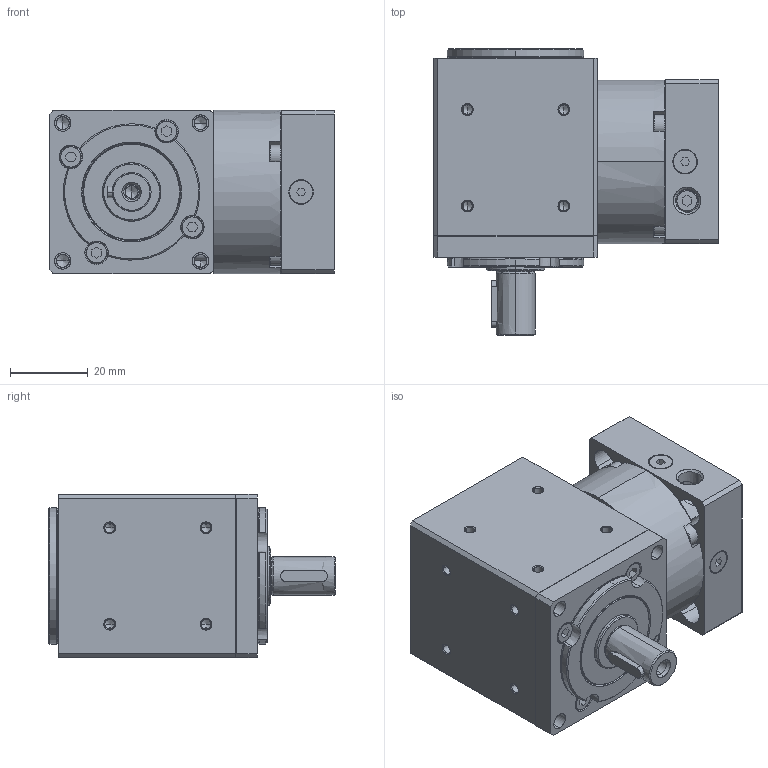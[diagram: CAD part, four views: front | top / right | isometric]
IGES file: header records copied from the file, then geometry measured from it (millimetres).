
Start section: SolidWorks IGES file using analytic representation for surfaces
Global section: file name: C:\Users\render\Documents\CAD Files\R-Gearboxes\RLAS\RLAS-042-XXX\RLAS-042-00X.IGS; native system: SolidWorks 2011; preprocessor: SolidWorks 2011; author: render; date: 120227.132213; units: millimetre
Bounding box: 73 x 73.5 x 42 mm (x, y, z)
Surface area: 55473.9 mm2 (no closed solid volume)
Topology: 0 solids, 0 shells, 1013 faces, 15107 edges, 15045 vertices
Faces by surface type: revolution 674, bspline 339
